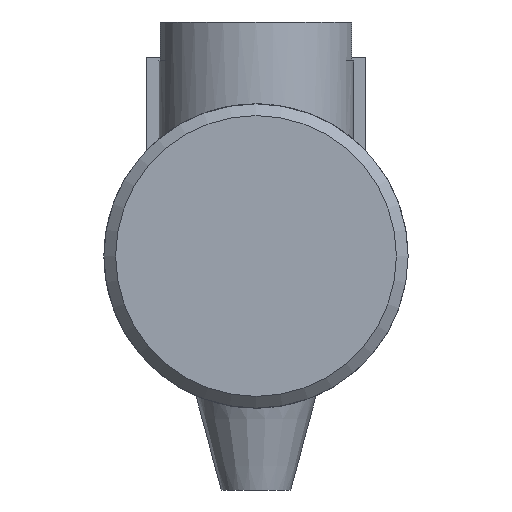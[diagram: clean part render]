
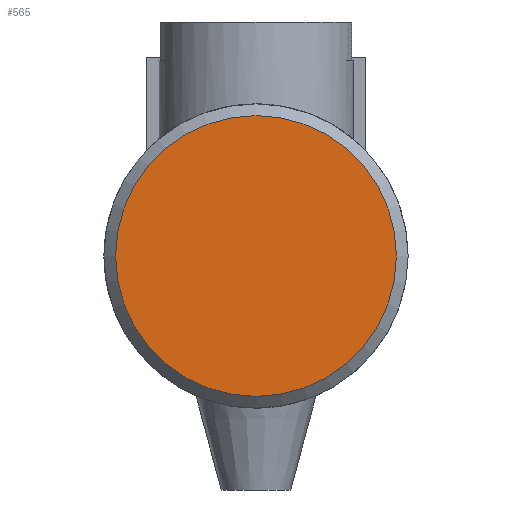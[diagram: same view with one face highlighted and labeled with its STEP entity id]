
A CAD part, front view. The second image highlights one B-rep face of the part: STEP entity #565.
In plain terms, the highlighted planar face has unit normal (0, -1, 0).
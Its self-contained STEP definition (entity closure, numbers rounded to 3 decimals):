
#333 = VERTEX_POINT('',#334);
#334 = CARTESIAN_POINT('',(1.8,-26.3,0.));
#342 = EDGE_CURVE('',#333,#333,#343,.T.);
#343 = CIRCLE('',#344,1.8);
#344 = AXIS2_PLACEMENT_3D('',#345,#346,#347);
#345 = CARTESIAN_POINT('',(0.,-26.3,0.));
#346 = DIRECTION('',(0.,-1.,0.));
#347 = DIRECTION('',(1.,0.,0.));
#565 = ADVANCED_FACE('',(#566),#569,.F.);
#566 = FACE_BOUND('',#567,.F.);
#567 = EDGE_LOOP('',(#568));
#568 = ORIENTED_EDGE('',*,*,#342,.F.);
#569 = PLANE('',#570);
#570 = AXIS2_PLACEMENT_3D('',#571,#572,#573);
#571 = CARTESIAN_POINT('',(0.,-26.3,0.)
  );
#572 = DIRECTION('',(0.,1.,0.));
#573 = DIRECTION('',(0.,0.,1.));
